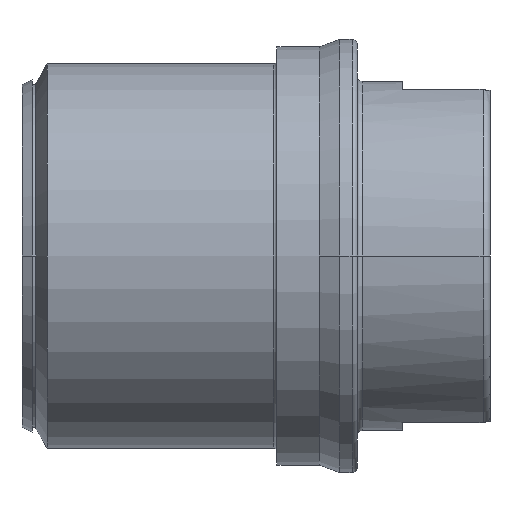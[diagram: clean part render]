
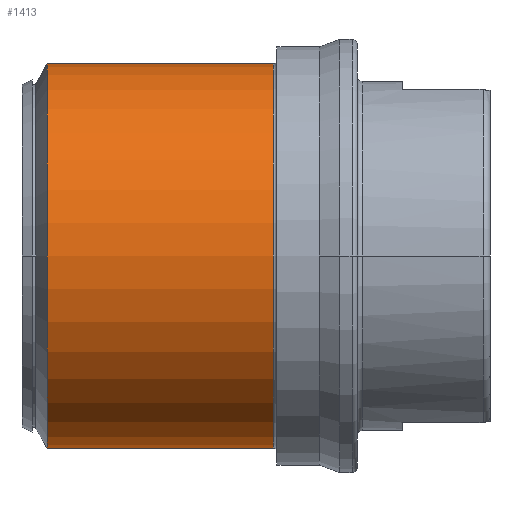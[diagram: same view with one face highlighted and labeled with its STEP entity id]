
A CAD part, front view. The second image highlights one B-rep face of the part: STEP entity #1413.
In plain terms, the highlighted cylindrical face has radius 55 mm (diameter 110 mm), a partial arc.
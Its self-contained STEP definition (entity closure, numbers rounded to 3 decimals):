
#52 = EDGE_CURVE ( 'NONE', #1196, #1582, #1374, .T. ) ;
#55 = EDGE_CURVE ( 'NONE', #1197, #1583, #1384, .T. ) ;
#56 = EDGE_CURVE ( 'NONE', #1197, #1196, #655, .T. ) ;
#155 = AXIS2_PLACEMENT_3D ( 'NONE', #388, #384, #390 ) ;
#233 = AXIS2_PLACEMENT_3D ( 'NONE', #903, #904, #905 ) ;
#237 = CIRCLE ( 'NONE', #233, 55. ) ;
#280 = CARTESIAN_POINT ( 'NONE',  ( 72., 0., 55. ) ) ;
#285 = CARTESIAN_POINT ( 'NONE',  ( 72., 0., -55. ) ) ;
#384 = DIRECTION ( 'NONE',  ( -1., 0., 0. ) ) ;
#387 = FACE_OUTER_BOUND ( 'NONE', #1118, .T. ) ;
#388 = CARTESIAN_POINT ( 'NONE',  ( -5.267, 0., 0. ) ) ;
#389 = CYLINDRICAL_SURFACE ( 'NONE', #155, 55. ) ;
#390 = DIRECTION ( 'NONE',  ( 0., 0., 1. ) ) ;
#550 = CARTESIAN_POINT ( 'NONE',  ( 7.185, 0., 55. ) ) ;
#551 = CARTESIAN_POINT ( 'NONE',  ( 7.185, 0., -55. ) ) ;
#653 = AXIS2_PLACEMENT_3D ( 'NONE', #781, #782, #783 ) ;
#655 = CIRCLE ( 'NONE', #653, 55. ) ;
#659 = VECTOR ( 'NONE', #1388, 1000. ) ;
#668 = VECTOR ( 'NONE', #1379, 1000. ) ;
#749 = EDGE_CURVE ( 'NONE', #1583, #1582, #237, .T. ) ;
#781 = CARTESIAN_POINT ( 'NONE',  ( 72., 0., 0. ) ) ;
#782 = DIRECTION ( 'NONE',  ( -1., 0., 0. ) ) ;
#783 = DIRECTION ( 'NONE',  ( 0., 0., 1. ) ) ;
#903 = CARTESIAN_POINT ( 'NONE',  ( 7.185, 0., 0. ) ) ;
#904 = DIRECTION ( 'NONE',  ( -1., 0., 0. ) ) ;
#905 = DIRECTION ( 'NONE',  ( 0., 0., -1. ) ) ;
#1118 = EDGE_LOOP ( 'NONE', ( #1506, #1505, #1504, #1503 ) ) ;
#1196 = VERTEX_POINT ( 'NONE', #280 ) ;
#1197 = VERTEX_POINT ( 'NONE', #285 ) ;
#1370 = CARTESIAN_POINT ( 'NONE',  ( -5.267, 0., 55. ) ) ;
#1374 = LINE ( 'NONE', #1370, #668 ) ;
#1379 = DIRECTION ( 'NONE',  ( -1., 0., 0. ) ) ;
#1380 = CARTESIAN_POINT ( 'NONE',  ( -5.267, 0., -55. ) ) ;
#1384 = LINE ( 'NONE', #1380, #659 ) ;
#1388 = DIRECTION ( 'NONE',  ( -1., 0., 0. ) ) ;
#1413 = ADVANCED_FACE ( 'NONE', ( #387 ), #389, .T. ) ;
#1503 = ORIENTED_EDGE ( 'NONE', *, *, #749, .F. ) ;
#1504 = ORIENTED_EDGE ( 'NONE', *, *, #52, .T. ) ;
#1505 = ORIENTED_EDGE ( 'NONE', *, *, #56, .T. ) ;
#1506 = ORIENTED_EDGE ( 'NONE', *, *, #55, .F. ) ;
#1582 = VERTEX_POINT ( 'NONE', #550 ) ;
#1583 = VERTEX_POINT ( 'NONE', #551 ) ;
